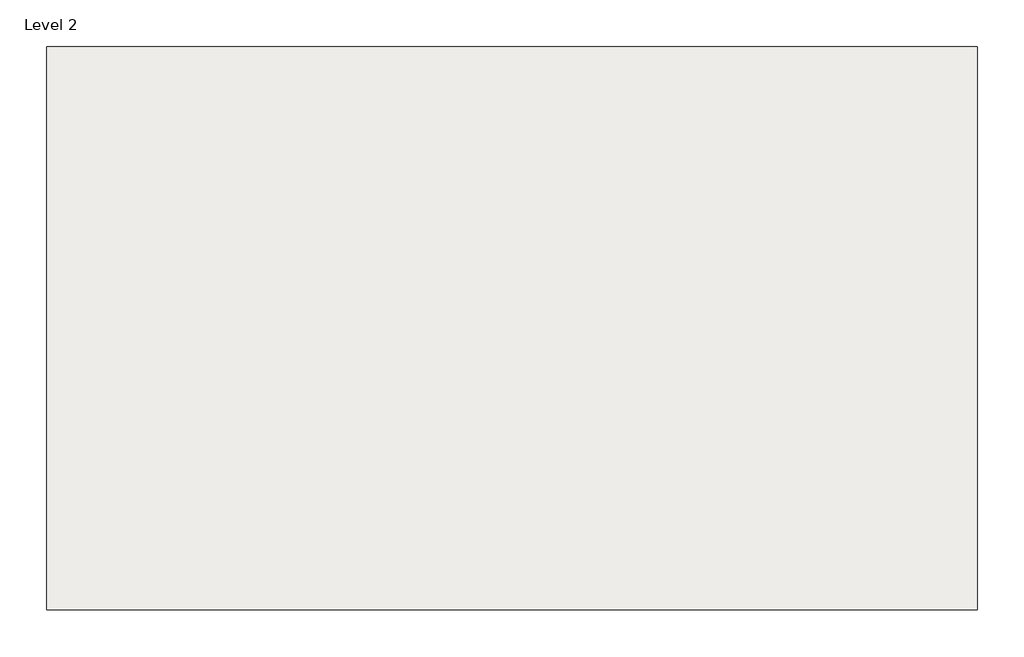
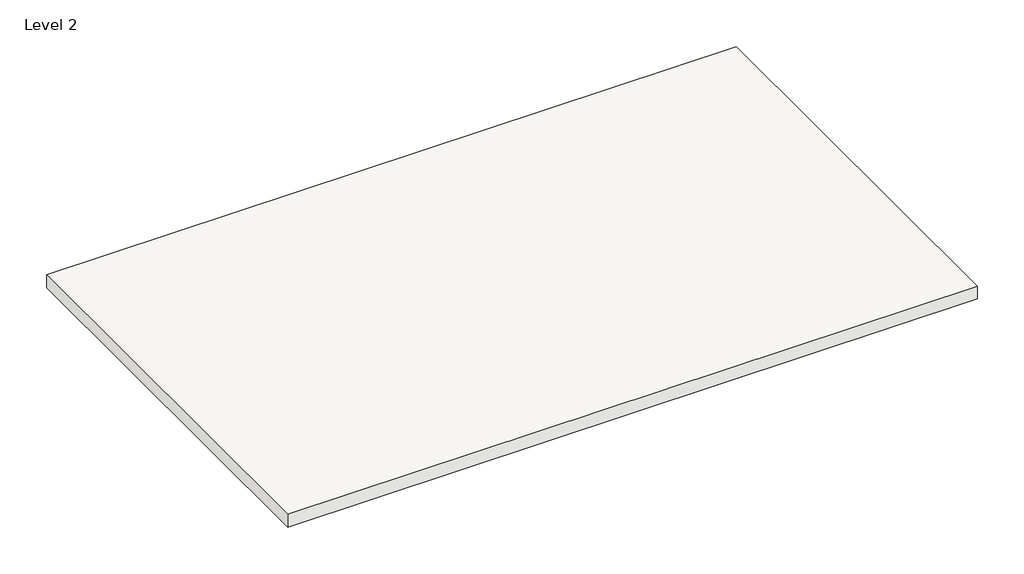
# One storey: 1 roof.
"""IFC4 building model written with IfcOpenShell, lengths in millimetres."""

from ifc_helpers import new_model, si_unit, frame, origin, place, context, project, spatial, polyline, outline, extrude, element, save

model = new_model("IFC4")

# Units and contexts
model_context = context("Model", 3, world=origin())
ifc_project = project(units=[si_unit("LENGTHUNIT", "METRE", prefix="MILLI")], contexts=[model_context])

# Site, building, storey
site = spatial("IfcSite", under=ifc_project)
building = spatial("IfcBuilding", under=site)
storey = spatial("IfcBuildingStorey", under=building, Name="Level 2", Elevation=3048.0)

# Roof
placement = place(None, origin())
element("IfcRoof", 1, ObjectType="Generic - 12\"", at=placement, inside=storey, context=model_context, shape_type="SweptSolid", body=[
    extrude(outline(polyline([(-7840.93909, 68.1412302), (-7840.93909, 9415.3412302), (7602.26091, 9415.3412302), (7602.26091, 68.1412302), (-7840.93909, 68.1412302)])), frame((0.0, 0.0, 3048.0), z_axis=(0.0, 0.0, 1.0), x_axis=(1.0, 0.0, 0.0)), (0.0, 0.0, 1.0), 304.8),
])

save(model, "model.ifc")
